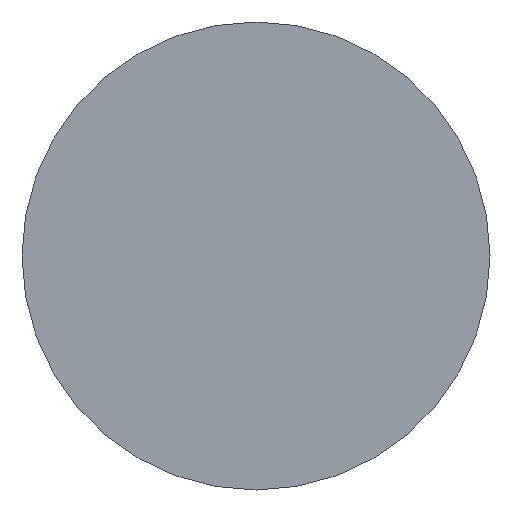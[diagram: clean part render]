
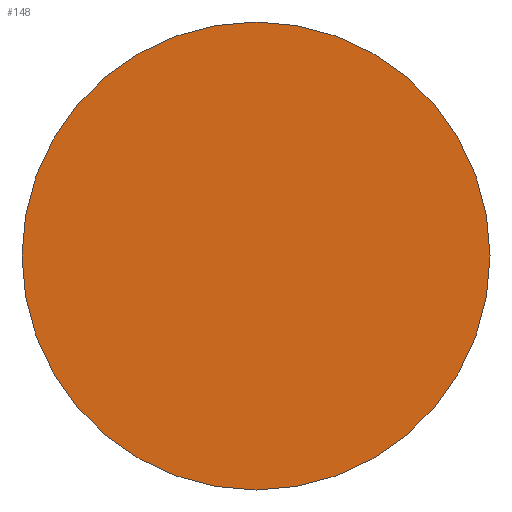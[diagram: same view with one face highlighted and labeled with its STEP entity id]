
A CAD part, left-side view. The second image highlights one B-rep face of the part: STEP entity #148.
In plain terms, the highlighted planar face has unit normal (-1, 0, 0).
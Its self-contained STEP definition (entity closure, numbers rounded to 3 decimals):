
#7 = DIRECTION ( 'NONE',  ( 0., 1., 0. ) ) ;
#35 = EDGE_CURVE ( 'NONE', #55, #79, #93, .T. ) ;
#39 = AXIS2_PLACEMENT_3D ( 'NONE', #224, #159, #100 ) ;
#41 = FACE_OUTER_BOUND ( 'NONE', #209, .T. ) ;
#47 = DIRECTION ( 'NONE',  ( 0., 1., 0. ) ) ;
#51 = CARTESIAN_POINT ( 'NONE',  ( 0., 0., 0. ) ) ;
#54 = ORIENTED_EDGE ( 'NONE', *, *, #125, .F. ) ;
#55 = VERTEX_POINT ( 'NONE', #185 ) ;
#79 = VERTEX_POINT ( 'NONE', #244 ) ;
#93 = CIRCLE ( 'NONE', #235, 6. ) ;
#100 = DIRECTION ( 'NONE',  ( 0., -1., 0. ) ) ;
#108 = CARTESIAN_POINT ( 'NONE',  ( 0., 0., 0. ) ) ;
#112 = AXIS2_PLACEMENT_3D ( 'NONE', #51, #186, #47 ) ;
#123 = PLANE ( 'NONE',  #39 ) ;
#125 = EDGE_CURVE ( 'NONE', #79, #55, #158, .T. ) ;
#142 = DIRECTION ( 'NONE',  ( 1., 0., 0. ) ) ;
#148 = ADVANCED_FACE ( 'NONE', ( #41 ), #123, .T. ) ;
#158 = CIRCLE ( 'NONE', #112, 6. ) ;
#159 = DIRECTION ( 'NONE',  ( -1., 0., 0. ) ) ;
#174 = ORIENTED_EDGE ( 'NONE', *, *, #35, .F. ) ;
#185 = CARTESIAN_POINT ( 'NONE',  ( 0., 6., 0. ) ) ;
#186 = DIRECTION ( 'NONE',  ( 1., 0., 0. ) ) ;
#209 = EDGE_LOOP ( 'NONE', ( #174, #54 ) ) ;
#224 = CARTESIAN_POINT ( 'NONE',  ( 0., 0., 0. ) ) ;
#235 = AXIS2_PLACEMENT_3D ( 'NONE', #108, #142, #7 ) ;
#244 = CARTESIAN_POINT ( 'NONE',  ( 0., -6., 0. ) ) ;
